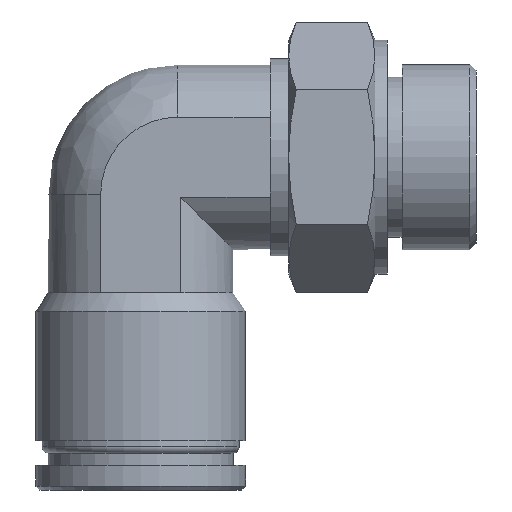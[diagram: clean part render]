
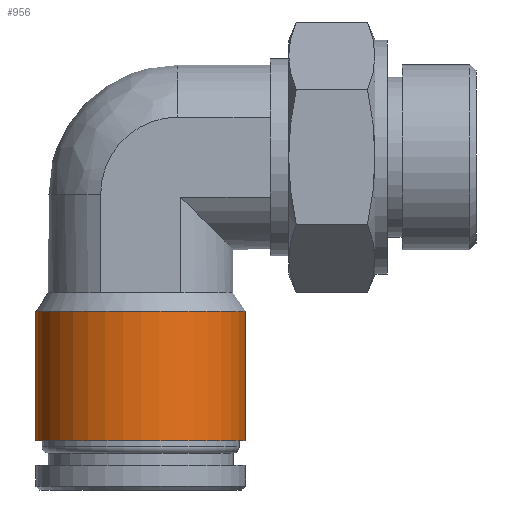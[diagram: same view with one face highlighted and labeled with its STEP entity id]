
A CAD part, left-side view. The second image highlights one B-rep face of the part: STEP entity #956.
In plain terms, the highlighted cylindrical face has radius 8.5 mm (diameter 17 mm), a full revolution.
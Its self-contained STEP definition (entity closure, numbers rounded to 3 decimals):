
#166=FACE_OUTER_BOUND('',#241,.T.);
#241=EDGE_LOOP('',(#823,#824,#825,#826));
#281=LINE('',#1791,#315);
#315=VECTOR('',#1436,8.5);
#383=CIRCLE('',#1146,8.5);
#386=CIRCLE('',#1152,8.5);
#468=VERTEX_POINT('',#1778);
#470=VERTEX_POINT('',#1788);
#588=EDGE_CURVE('',#468,#468,#383,.T.);
#592=EDGE_CURVE('',#470,#470,#386,.T.);
#593=EDGE_CURVE('',#468,#470,#281,.T.);
#823=ORIENTED_EDGE('',*,*,#588,.F.);
#824=ORIENTED_EDGE('',*,*,#593,.T.);
#825=ORIENTED_EDGE('',*,*,#592,.T.);
#826=ORIENTED_EDGE('',*,*,#593,.F.);
#900=CYLINDRICAL_SURFACE('',#1153,8.5);
#956=ADVANCED_FACE('',(#166),#900,.T.);
#1146=AXIS2_PLACEMENT_3D('',#1780,#1419,#1420);
#1152=AXIS2_PLACEMENT_3D('',#1789,#1432,#1433);
#1153=AXIS2_PLACEMENT_3D('',#1790,#1434,#1435);
#1419=DIRECTION('center_axis',(0.,0.,1.));
#1420=DIRECTION('ref_axis',(1.,0.,0.));
#1432=DIRECTION('center_axis',(0.,0.,1.));
#1433=DIRECTION('ref_axis',(1.,0.,0.));
#1434=DIRECTION('center_axis',(0.,0.,1.));
#1435=DIRECTION('ref_axis',(0.,-1.,0.));
#1436=DIRECTION('',(0.,0.,-1.));
#1778=CARTESIAN_POINT('',(0.,19.,-12.5));
#1780=CARTESIAN_POINT('Origin',(0.,10.5,-12.5));
#1788=CARTESIAN_POINT('',(0.,19.,-23.));
#1789=CARTESIAN_POINT('Origin',(0.,10.5,-23.));
#1790=CARTESIAN_POINT('Origin',(0.,10.5,-17.75));
#1791=CARTESIAN_POINT('',(0.,19.,-17.75));
